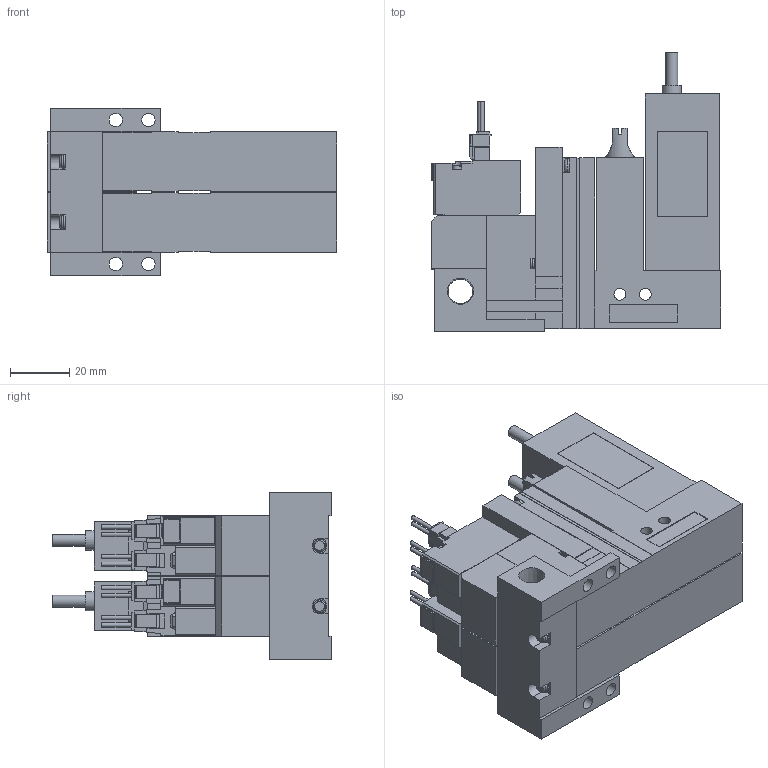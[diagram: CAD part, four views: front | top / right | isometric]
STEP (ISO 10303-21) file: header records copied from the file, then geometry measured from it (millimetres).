
FILE_DESCRIPTION(('STEP AP203'),'1');
FILE_NAME('VGVGPLC5ALR202.stp','2025-02-18T07:04:39',(' '),(' '),'Spatial InterOp 3D',' ',' ');
FILE_SCHEMA(('CONFIG_CONTROL_DESIGN'));
Length unit declared in the file: millimetre
Products named in the file (5): BMC22M※※※※VGVGPLC5ALR202; Solenoid valve A; Pressure sensor VGLC; Unit LC; Base MR20R
Assembly tree (7 placements, depth 2):
  BMC22M※※※※VGVGPLC5ALR202
    Solenoid valve A  x2
    Pressure sensor VGLC  x2
    Unit LC  x2
    Base MR20R
Bounding box: 97.6 x 94 x 56.5 mm (x, y, z)
Volume: 229197.3 mm3; surface area: 59849.7 mm2
Topology: 7 solids, 7 shells, 851 faces, 2279 edges, 1500 vertices
Faces by surface type: plane 718, cylinder 107, cone 16, torus 10
Full cylindrical faces by diameter (mm): 1.4 x8, 2.5 x6, 3 x8, 3.5 x8, 3.6 x2, 4 x12, 4.134 x2, 4.5 x4, 5.2 x2, 6 x2, 6.5 x2, 6.6 x2, 8.279 x1
Entity records: 13959 total; most frequent: CARTESIAN_POINT 2599, ORIENTED_EDGE 2254, DIRECTION 2207, EDGE_CURVE 1127, LINE 953, VECTOR 953, VERTEX_POINT 773, AXIS2_PLACEMENT_3D 627
